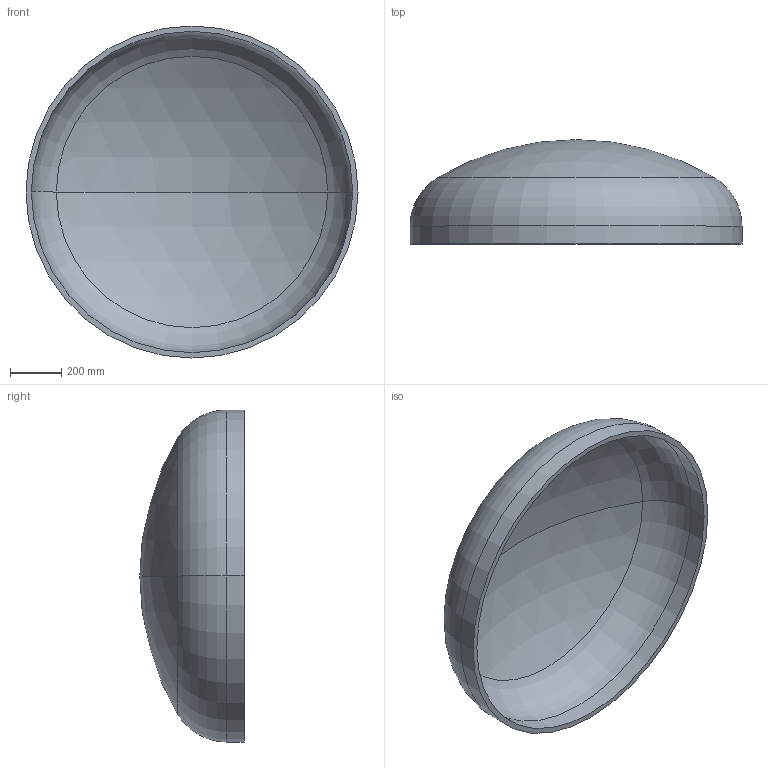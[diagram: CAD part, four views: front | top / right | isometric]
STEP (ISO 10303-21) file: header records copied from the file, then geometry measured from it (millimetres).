
FILE_DESCRIPTION (( 'STEP AP203' ), '1' );
FILE_NAME ('DIN 28013 Korbbogenform_-_Boden DIN 28013 - 1300 x 70 - I - s=21.step', '2016-07-01T09:45:42', ( '' ), ( '' ), 'SwSTEP 2.0', 'SolidWorks 2013', '' );
FILE_SCHEMA (( 'CONFIG_CONTROL_DESIGN' ));
Length unit declared in the file: millimetre
Products named in the file (1): DIN 28013 Korbbogenform_-_Boden DIN 28013 - 1300 x 70 - I - s=21
Bounding box: 1300 x 408.81 x 1300 mm (x, y, z)
Volume: 43689610 mm3; surface area: 4246217.5 mm2
Topology: 1 solids, 1 shells, 13 faces, 24 edges, 14 vertices
Faces by surface type: torus 4, cylinder 4, sphere 4, plane 1
Entity records: 407 total; most frequent: DIRECTION 72, CARTESIAN_POINT 52, ORIENTED_EDGE 48, AXIS2_PLACEMENT_3D 34, EDGE_CURVE 24, CIRCLE 20, EDGE_LOOP 14, VERTEX_POINT 14
